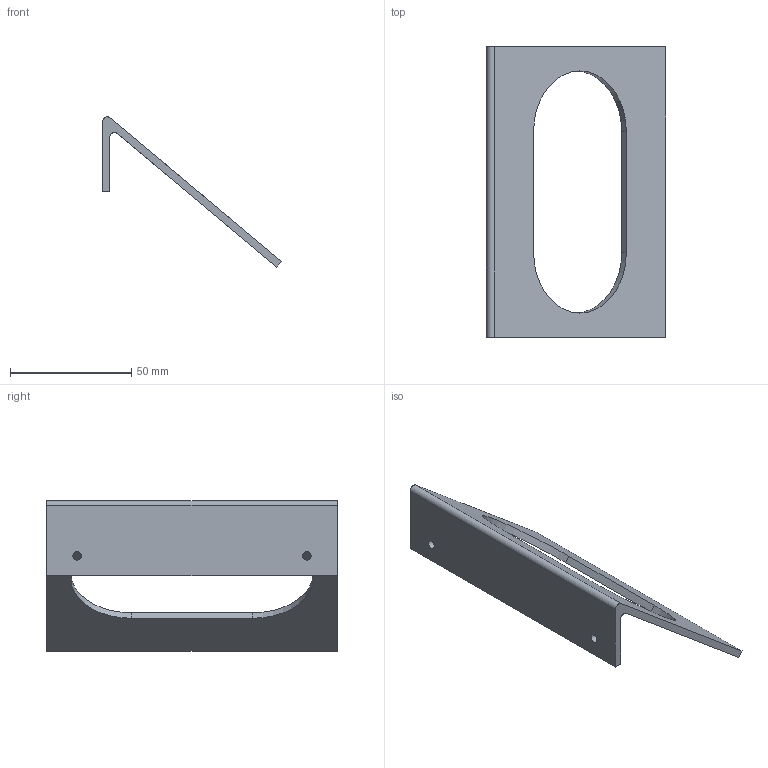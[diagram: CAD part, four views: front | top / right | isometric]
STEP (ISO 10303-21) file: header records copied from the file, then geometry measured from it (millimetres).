
FILE_DESCRIPTION(/* description */ (''),/* implementation_level */ '2;1');
FILE_NAME(/* name */ '',/* time_stamp */ '2026-04-10T14:31:50+02:00',/* author */ (''),/* organization */ (''),/* preprocessor_version */ 'ST-DEVELOPER v20.1',/* originating_system */ 'Autodesk Translation Framework v14.24.0.0',/* authorisation */ '');
FILE_SCHEMA (('AUTOMOTIVE_DESIGN { 1 0 10303 214 3 1 1 }'));
Length unit declared in the file: millimetre
Products named in the file (1): (Niezapisany)
Bounding box: 73.97 x 120 x 62.08 mm (x, y, z)
Volume: 30955.4 mm3; surface area: 21964.6 mm2
Topology: 1 solids, 1 shells, 16 faces, 42 edges, 28 vertices
Faces by surface type: plane 10, cylinder 6
Full cylindrical faces by diameter (mm): 3.5 x2
Entity records: 543 total; most frequent: DIRECTION 88, CARTESIAN_POINT 87, ORIENTED_EDGE 84, EDGE_CURVE 42, LINE 30, VECTOR 30, AXIS2_PLACEMENT_3D 29, VERTEX_POINT 28
